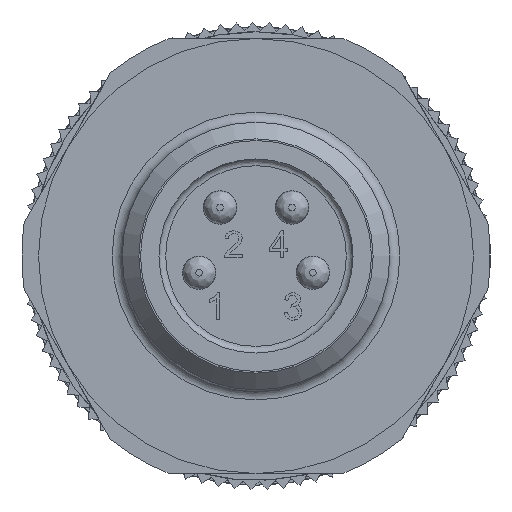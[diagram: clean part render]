
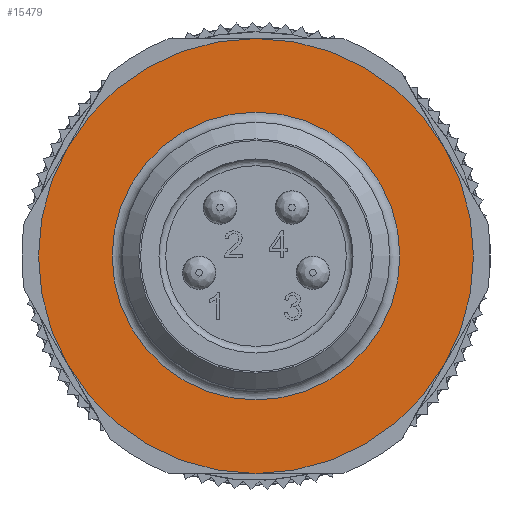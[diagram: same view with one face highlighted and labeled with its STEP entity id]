
A CAD part, left-side view. The second image highlights one B-rep face of the part: STEP entity #15479.
In plain terms, the highlighted planar face has unit normal (-1, 0, 0).
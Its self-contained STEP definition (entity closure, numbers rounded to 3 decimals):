
#350=FACE_BOUND('',#5743,.T.);
#424=PLANE('',#16394);
#4225=CIRCLE('',#16366,6.5);
#4234=CIRCLE('',#16395,4.3);
#4823=FACE_OUTER_BOUND('',#5742,.T.);
#5742=EDGE_LOOP('',(#11044));
#5743=EDGE_LOOP('',(#11045));
#6834=VERTEX_POINT('',#23500);
#6849=VERTEX_POINT('',#23568);
#8405=EDGE_CURVE('',#6834,#6834,#4225,.T.);
#8438=EDGE_CURVE('',#6849,#6849,#4234,.T.);
#11044=ORIENTED_EDGE('',*,*,#8405,.F.);
#11045=ORIENTED_EDGE('',*,*,#8438,.F.);
#15479=ADVANCED_FACE('',(#4823,#350),#424,.T.);
#16366=AXIS2_PLACEMENT_3D('',#23501,#17961,#17962);
#16394=AXIS2_PLACEMENT_3D('',#23567,#18041,#18042);
#16395=AXIS2_PLACEMENT_3D('',#23569,#18043,#18044);
#17961=DIRECTION('center_axis',(1.,0.,0.));
#17962=DIRECTION('ref_axis',(0.,0.,-1.));
#18041=DIRECTION('center_axis',(-1.,0.,0.));
#18042=DIRECTION('ref_axis',(0.,-1.,0.));
#18043=DIRECTION('center_axis',(-1.,0.,0.));
#18044=DIRECTION('ref_axis',(0.,0.,1.));
#23500=CARTESIAN_POINT('',(-9.,-5.629,3.25));
#23501=CARTESIAN_POINT('Origin',(-9.,0.,0.));
#23567=CARTESIAN_POINT('Origin',(-9.,0.,-5.25));
#23568=CARTESIAN_POINT('',(-9.,0.,-4.3));
#23569=CARTESIAN_POINT('Origin',(-9.,0.,0.));
